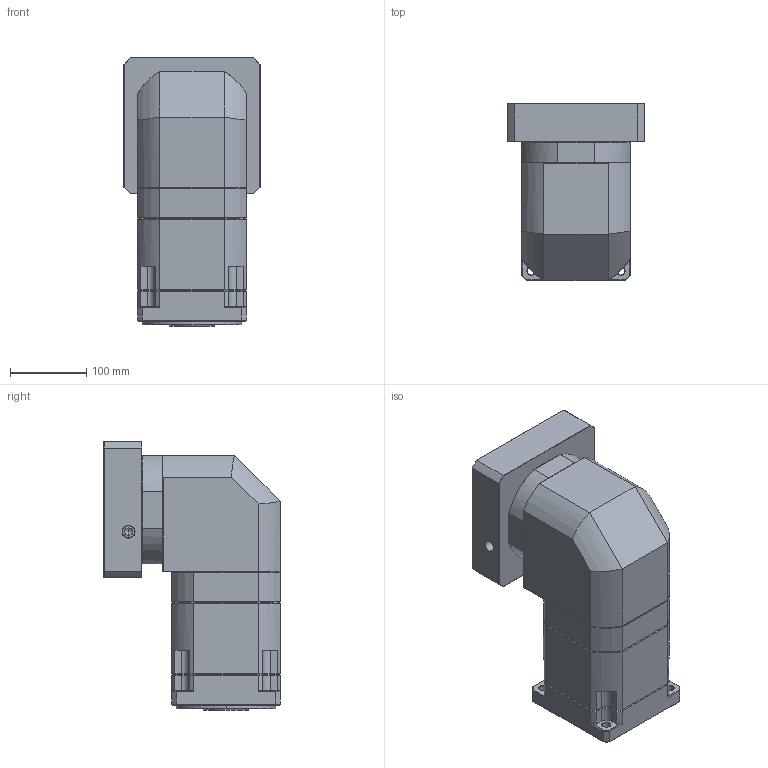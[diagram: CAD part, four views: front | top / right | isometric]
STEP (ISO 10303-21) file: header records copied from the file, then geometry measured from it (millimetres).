
FILE_DESCRIPTION (( 'STEP AP214' ), '1' );
FILE_NAME ('ZBR142A-K35-L3-P2-35-114.3-200-M12.step', '2023-09-02T07:18:05', ( '' ), ( '' ), 'SwSTEP 2.0', 'SolidWorks 2016', '' );
FILE_SCHEMA (( 'AUTOMOTIVE_DESIGN' ));
Length unit declared in the file: millimetre
Products named in the file (1): ZBR142A-K35-L3-P2-35-114.3-200-M12
Bounding box: 178 x 231 x 351.7 mm (x, y, z)
Volume: 7326601.3 mm3; surface area: 460782.1 mm2
Topology: 6 solids, 6 shells, 2263 faces, 5959 edges, 3802 vertices
Faces by surface type: plane 1125, bspline 403, cylinder 381, cone 334, torus 20
Entity records: 123030 total; most frequent: CARTESIAN_POINT 45393, ORIENTED_EDGE 11862, DIRECTION 9419, EDGE_CURVE 5931, LINE 3859, VECTOR 3859, VERTEX_POINT 3802, AXIS2_PLACEMENT_3D 2780
